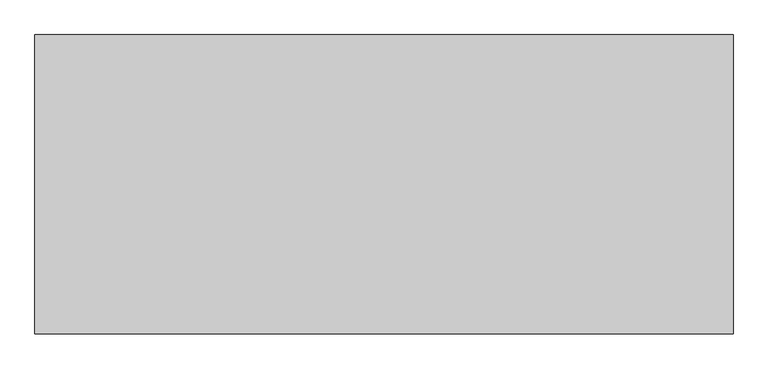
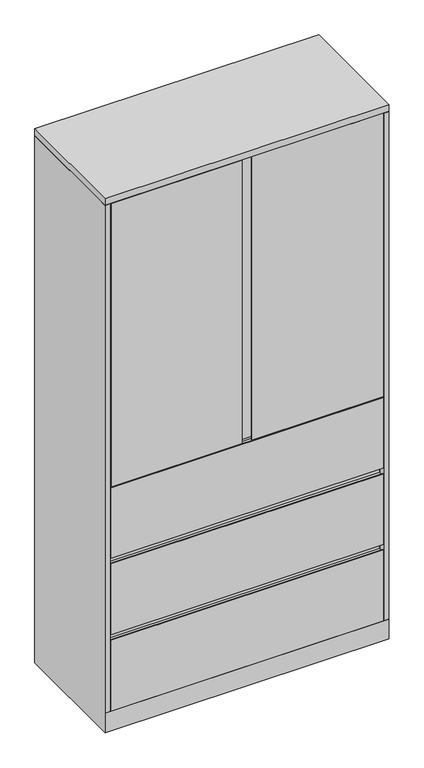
"""IFC4 building model written with IfcOpenShell, lengths in millimetres: furniture geometry, Steelcase - Universal Storage - Cabinet - Combination - Flush Steel : 83 1/2H - 3 Drawers - 18D x 42W."""

from ifc_helpers import new_model, si_unit, frame, origin, place, context, project, spatial, polyline, outline, extrude, faceted_brep, source, transform, mapped, element, save


def furniture_4e53ead8(model_context):
    return source(origin(), model_context, "Body", "SolidModel", [
        extrude(outline(polyline([(21.8068168, -431.673866), (1045.972, -431.673866), (1045.972, -457.2), (552.45, -457.2), (552.45, -452.883482), (565.6189152, -452.883482), (565.6189152, -438.0238781), (514.35, -438.0238781), (514.35, -457.2), (21.8068168, -457.2), (21.8068168, -431.673866)])), frame((0.0, 0.0, 968.756), z_axis=(0.0, 0.0, 1.0), x_axis=(1.0, 0.0, 0.0)), (0.0, 0.0, 1.0), 1125.22),
        extrude(outline(polyline([(1066.8, 0.0), (1066.8, -457.2), (0.0, -457.2), (0.0, 0.0), (1066.8, 0.0)])), frame((0.0, 0.0, 2095.4999516), z_axis=(0.0, 0.0, 1.0), x_axis=(1.0, 0.0, 0.0)), (0.0, 0.0, 1.0), 25.4000484),
        extrude(outline(polyline([(1041.4000242, -25.4000008), (1041.4000242, -430.1498674), (25.4000008, -430.1498674), (25.4000008, -25.4000008), (1041.4000242, -25.4000008)])), frame((0.0, 0.0, 1875.1550484), z_axis=(0.0, 0.0, 1.0), x_axis=(1.0, 0.0, 0.0)), (0.0, 0.0, 1.0), 22.2249516),
        extrude(outline(polyline([(1041.4000242, -25.4000008), (1041.4000242, -430.1498674), (25.4000008, -430.1498674), (25.4000008, -25.4000008), (1041.4000242, -25.4000008)])), frame((0.0, 0.0, 1571.8790484), z_axis=(0.0, 0.0, 1.0), x_axis=(1.0, 0.0, 0.0)), (0.0, 0.0, 1.0), 22.2249516),
        extrude(outline(polyline([(-457.2, 358.7750484), (-454.0242491, 358.7750484), (-454.0242491, 349.2500484), (-431.673866, 349.2500484), (-431.673866, 381.0), (-430.1498674, 381.0), (-430.1498674, 349.2500484), (-430.1498674, 77.724), (-457.2, 77.724), (-457.2, 358.7750484)])), frame((20.8280006, 0.0, 0.0), z_axis=(1.0, 0.0, 0.0), x_axis=(0.0, 1.0, 0.0)), (0.0, 0.0, 1.0), 1025.1439994),
        extrude(outline(polyline([(1041.4000242, -25.4000008), (1041.4000242, -430.1498674), (25.4000008, -430.1498674), (25.4000008, -25.4000008), (1041.4000242, -25.4000008)])), frame((0.0, 0.0, 358.7750484), z_axis=(0.0, 0.0, 1.0), x_axis=(1.0, 0.0, 0.0)), (0.0, 0.0, 1.0), 22.2249516),
        extrude(outline(polyline([(1041.4000242, -25.4000008), (1041.4000242, -430.1498674), (25.4000008, -430.1498674), (25.4000008, -25.4000008), (1041.4000242, -25.4000008)])), frame((0.0, 0.0, 1268.6030484), z_axis=(0.0, 0.0, 1.0), x_axis=(1.0, 0.0, 0.0)), (0.0, 0.0, 1.0), 22.2249516),
        extrude(outline(polyline([(-457.2, 965.3270484), (-454.0242491, 965.3270484), (-454.0242491, 955.8020484), (-431.673866, 955.8020484), (-431.673866, 987.552), (-430.1498674, 987.552), (-430.1498674, 955.8020484), (-430.1498674, 684.276), (-457.2, 684.276), (-457.2, 965.3270484)])), frame((20.8280006, 0.0, 0.0), z_axis=(1.0, 0.0, 0.0), x_axis=(0.0, 1.0, 0.0)), (0.0, 0.0, 1.0), 1025.1439994),
        extrude(outline(polyline([(1041.4000242, -25.4000008), (1041.4000242, -430.1498674), (25.4000008, -430.1498674), (25.4000008, -25.4000008), (1041.4000242, -25.4000008)])), frame((0.0, 0.0, 965.3270484), z_axis=(0.0, 0.0, 1.0), x_axis=(1.0, 0.0, 0.0)), (0.0, 0.0, 1.0), 22.2249516),
        extrude(outline(polyline([(-457.2, 662.0510484), (-454.0242491, 662.0510484), (-454.0242491, 652.5260484), (-431.673866, 652.5260484), (-431.673866, 684.276), (-430.1498674, 684.276), (-430.1498674, 652.5260484), (-430.1498674, 381.0), (-457.2, 381.0), (-457.2, 662.0510484)])), frame((20.8280006, 0.0, 0.0), z_axis=(1.0, 0.0, 0.0), x_axis=(0.0, 1.0, 0.0)), (0.0, 0.0, 1.0), 1025.1439994),
        extrude(outline(polyline([(1041.4000242, -25.4000008), (1041.4000242, -430.1498674), (25.4000008, -430.1498674), (25.4000008, -25.4000008), (1041.4000242, -25.4000008)])), frame((0.0, 0.0, 662.0510484), z_axis=(0.0, 0.0, 1.0), x_axis=(1.0, 0.0, 0.0)), (0.0, 0.0, 1.0), 22.2249516),
        faceted_brep([(1066.8, 0.0, 0.0), (1066.8, -457.2, 0.0), (0.0, -457.2, 0.0), (0.0, 0.0, 0.0), (0.0, 0.0, 2093.976), (1066.8, 0.0, 2093.976), (0.0, -457.2, 76.2), (0.0, -457.2, 77.724), (0.0, -457.2, 2093.976), (1066.8, -457.2, 76.2), (1066.8, -457.2, 2093.976), (1066.8, -457.2, 77.724), (1041.4000242, -25.4000008, 2093.976), (1041.4000242, -430.1498674, 2093.976), (1045.972, -430.1498674, 2093.976), (1045.972, -431.6738781, 2093.976), (1047.496, -431.6738781, 2093.976), (1047.496, -457.2, 2093.976), (19.304, -457.2, 2093.976), (19.304, -431.673866, 2093.976), (20.8280006, -431.673866, 2093.976), (20.8280006, -430.1498674, 2093.976), (25.4000008, -430.1498674, 2093.976), (25.4000008, -25.4000008, 2093.976), (19.304, -457.2, 77.724), (19.304, -437.896, 77.724), (1047.496, -457.2, 77.724), (1047.496, -437.7698418, 77.724), (1041.4000242, -25.4000008, 77.724), (1041.4000242, -430.1498674, 77.724), (1045.972, -430.1498674, 77.724), (1045.972, -431.6738781, 77.724), (1047.496, -431.6738781, 77.724), (19.304, -431.673866, 77.724), (20.8280006, -431.673866, 77.724), (20.8280006, -430.1498674, 77.724), (25.4000008, -430.1498674, 77.724), (25.4000008, -25.4000008, 77.724), (25.526134, -431.673866, 77.724), (1041.4000242, -431.673866, 77.724)], [[[0, 1, 2, 3]], [[0, 3, 4, 5]], [[4, 3, 2, 6, 7, 8]], [[2, 1, 9, 6]], [[1, 0, 5, 10, 11, 9]], [[12, 13, 14, 15, 16, 17, 10, 5, 4, 8, 18, 19, 20, 21, 22, 23]], [[24, 7, 25]], [[11, 26, 27]], [[13, 12, 28, 29]], [[14, 13, 29, 30]], [[15, 14, 30, 31]], [[16, 15, 31, 32]], [[17, 16, 32, 27, 26]], [[10, 17, 26, 11]], [[18, 8, 7, 24]], [[19, 18, 24, 25, 33]], [[20, 19, 33, 34]], [[21, 20, 34, 35]], [[22, 21, 35, 36]], [[23, 22, 36, 37]], [[12, 23, 37, 28]], [[38, 39, 27, 32, 31, 30, 29, 28, 37, 36, 35, 34, 33, 25]], [[7, 6, 38, 25]], [[39, 38, 6, 9]], [[39, 9, 11, 27]]]),
    ])


if __name__ == "__main__":
    model = new_model("IFC4")
    model_context = context("Model", 3, world=origin())
    ifc_project = project(units=[si_unit("LENGTHUNIT", "METRE", prefix="MILLI")], contexts=[model_context])
    site = spatial("IfcSite", under=ifc_project)
    building = spatial("IfcBuilding", under=site)
    placement = place(None, origin())
    furniture_shape = furniture_4e53ead8(model_context)
    element("IfcFurniture", 1, ObjectType="Steelcase - Universal Storage - Cabinet - Combination - Flush Steel : 83 1/2H - 3 Drawers - 18D x 42W", at=placement, inside=building, context=model_context, shape_type="MappedRepresentation", body=[
        mapped(furniture_shape, transform((0.0, 0.0, 0.0), x_axis=(1.0, 0.0, 0.0), y_axis=(0.0, 1.0, 0.0), z_axis=(0.0, 0.0, 1.0))),
    ])
    save(model, "model.ifc")
